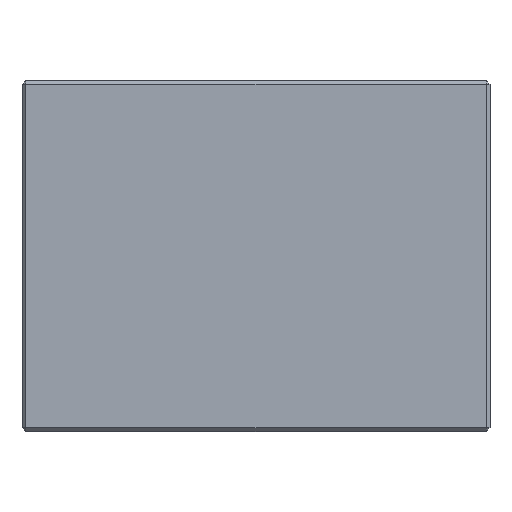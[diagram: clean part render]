
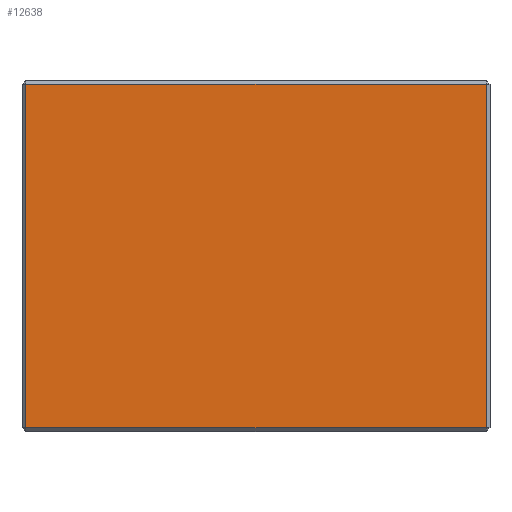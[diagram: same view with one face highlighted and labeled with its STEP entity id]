
A CAD part, front view. The second image highlights one B-rep face of the part: STEP entity #12638.
In plain terms, the highlighted planar face has unit normal (0, -1, 0).
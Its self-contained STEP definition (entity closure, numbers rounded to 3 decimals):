
#399 = ORIENTED_EDGE ( 'NONE', *, *, #774, .T. ) ;
#407 = VECTOR ( 'NONE', #6089, 1000. ) ;
#416 = LINE ( 'NONE', #6516, #407 ) ;
#774 = EDGE_CURVE ( 'NONE', #5391, #7940, #416, .T. ) ;
#1183 = VECTOR ( 'NONE', #4068, 1000. ) ;
#1229 = LINE ( 'NONE', #4078, #1183 ) ;
#2548 = EDGE_CURVE ( 'NONE', #7940, #7910, #10875, .T. ) ;
#2814 = AXIS2_PLACEMENT_3D ( 'NONE', #12273, #12055, #12052 ) ;
#2911 = CARTESIAN_POINT ( 'NONE',  ( 59.5, -30., 22. ) ) ;
#3186 = ORIENTED_EDGE ( 'NONE', *, *, #2548, .T. ) ;
#3761 = CARTESIAN_POINT ( 'NONE',  ( 0.5, -30., 22. ) ) ;
#4016 = ORIENTED_EDGE ( 'NONE', *, *, #12112, .T. ) ;
#4068 = DIRECTION ( 'NONE',  ( -1., 0., 0. ) ) ;
#4078 = CARTESIAN_POINT ( 'NONE',  ( 60., -30., 22. ) ) ;
#4747 = CARTESIAN_POINT ( 'NONE',  ( 0.5, -30., -22. ) ) ;
#5391 = VERTEX_POINT ( 'NONE', #3761 ) ;
#5462 = VERTEX_POINT ( 'NONE', #2911 ) ;
#5660 = CARTESIAN_POINT ( 'NONE',  ( 59.5, -30., -22. ) ) ;
#6089 = DIRECTION ( 'NONE',  ( 0., 0., -1. ) ) ;
#6516 = CARTESIAN_POINT ( 'NONE',  ( 0.5, -30., -22.5 ) ) ;
#6887 = DIRECTION ( 'NONE',  ( 0., 0., 1. ) ) ;
#7224 = LINE ( 'NONE', #7225, #7302 ) ;
#7225 = CARTESIAN_POINT ( 'NONE',  ( 59.5, -30., 22.5 ) ) ;
#7302 = VECTOR ( 'NONE', #6887, 1000. ) ;
#7910 = VERTEX_POINT ( 'NONE', #5660 ) ;
#7940 = VERTEX_POINT ( 'NONE', #4747 ) ;
#8070 = FACE_OUTER_BOUND ( 'NONE', #10962, .T. ) ;
#8257 = CARTESIAN_POINT ( 'NONE',  ( 60., -30., -22. ) ) ;
#9815 = EDGE_CURVE ( 'NONE', #5462, #5391, #1229, .T. ) ;
#10628 = ORIENTED_EDGE ( 'NONE', *, *, #9815, .T. ) ;
#10875 = LINE ( 'NONE', #8257, #10899 ) ;
#10899 = VECTOR ( 'NONE', #12422, 1000. ) ;
#10962 = EDGE_LOOP ( 'NONE', ( #399, #3186, #4016, #10628 ) ) ;
#12052 = DIRECTION ( 'NONE',  ( 0., 0., 1. ) ) ;
#12055 = DIRECTION ( 'NONE',  ( 0., 1., 0. ) ) ;
#12064 = PLANE ( 'NONE',  #2814 ) ;
#12112 = EDGE_CURVE ( 'NONE', #7910, #5462, #7224, .T. ) ;
#12273 = CARTESIAN_POINT ( 'NONE',  ( 60., -30., 22.5 ) ) ;
#12422 = DIRECTION ( 'NONE',  ( 1., 0., 0. ) ) ;
#12638 = ADVANCED_FACE ( 'NONE', ( #8070 ), #12064, .F. ) ;
